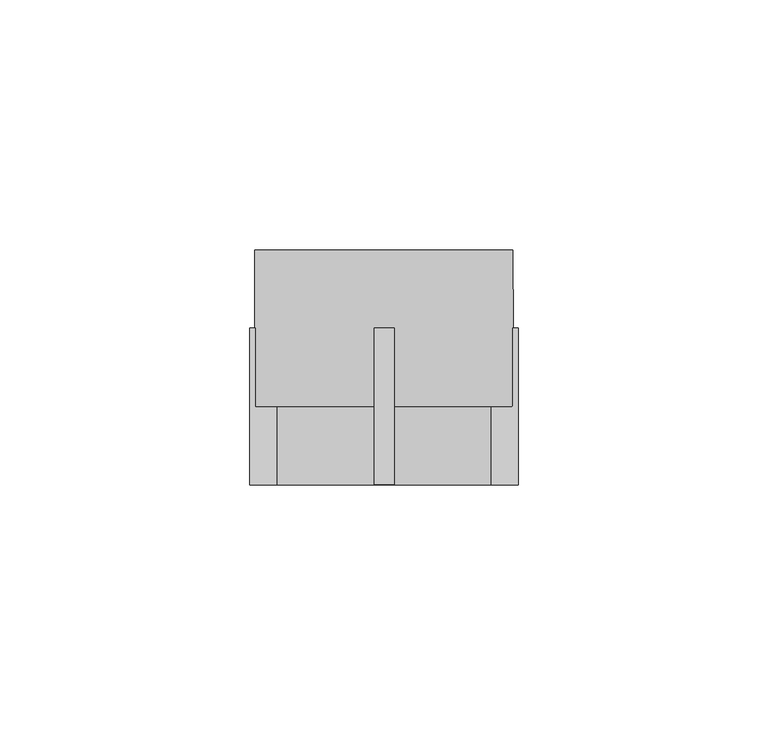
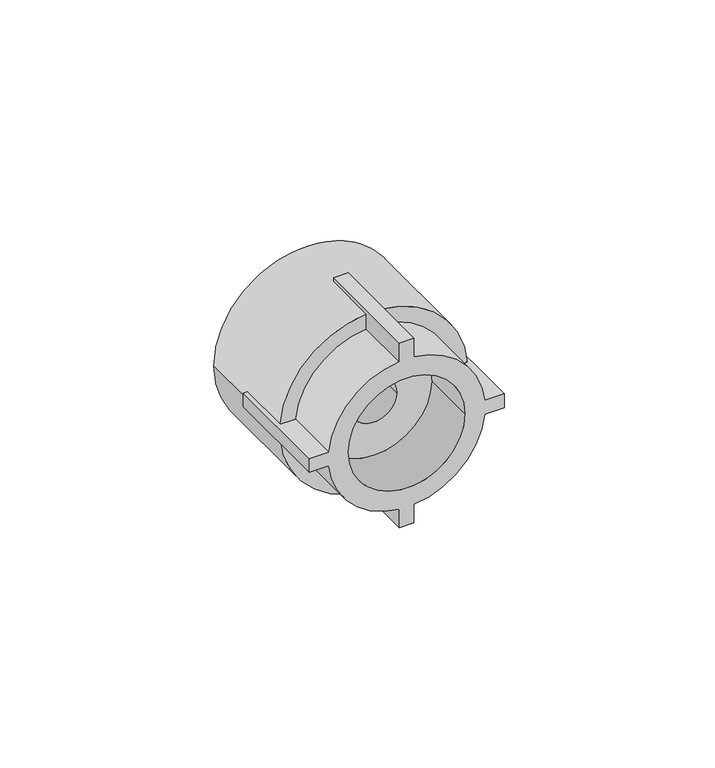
"""IFC4 building model written with IfcOpenShell, lengths in millimetres: pipe fitting geometry, EGB_VASEN_ PPR_Entronque rosca hembra WXR102 : Entronque rosca hembra WXR102."""

import ifcopenshell
import ifcopenshell.guid

model = None  # the IFC model being written
_history = None  # IfcOwnerHistory: only IFC2X3 demands one
_inside = {}  # id of a spatial element -> (the spatial element, [elements in it])
_under = {}  # id of a project, library or spatial element -> (it, [spatial elements below it])
_declared = {}  # id of a project -> (the project, [libraries it declares])
_typed = {}  # id of a type object -> (the type object, [elements of that type])
_made_of = {}  # id of a material, layer set ... -> (it, [elements and type objects made of it])


def new_model(schema):
    """Start an empty IFC model of exactly this schema.

    Asked for "IFC4X3", IfcOpenShell would pick the latest addendum, in which some entities
    have other attributes; the version numbers below select the first issue.
    IFC2X3 requires an IfcOwnerHistory on every rooted entity: one is made here for all.
    """
    global model, _history
    if schema == "IFC4X3":
        model = ifcopenshell.file(schema_version=(4, 3, 0, 0))
    else:
        model = ifcopenshell.file(schema=schema)
    _inside.clear()
    _under.clear()
    _declared.clear()
    _typed.clear()
    _made_of.clear()
    _history = None
    if model.schema == "IFC2X3":
        org = make("IfcOrganization", Name="unknown")
        user = make(
            "IfcPersonAndOrganization",
            ThePerson=make("IfcPerson", FamilyName="unknown"),
            TheOrganization=org,
        )
        app = make(
            "IfcApplication",
            ApplicationDeveloper=org,
            Version="unknown",
            ApplicationFullName="unknown",
            ApplicationIdentifier="unknown",
        )
        _history = make(
            "IfcOwnerHistory",
            OwningUser=user,
            OwningApplication=app,
            ChangeAction="ADDED",
            CreationDate=0,
        )
    return model


def make(cls, **values):
    """One entity of the class cls with the attributes given. An attribute that is None is left unset."""
    return model.create_entity(
        cls, **{name: value for name, value in values.items() if value is not None}
    )


def rooted(cls, **values):
    """An entity with a GlobalId (a new one), such as an element, a storey or a relation."""
    return make(cls, GlobalId=ifcopenshell.guid.new(), OwnerHistory=_history, **values)


def si_unit(unit_type, name, prefix=None):
    """IfcSIUnit, for example si_unit("LENGTHUNIT", "METRE", prefix="MILLI")."""
    return make("IfcSIUnit", UnitType=unit_type, Prefix=prefix, Name=name)


def assignment(units):
    """IfcUnitAssignment: the units of a project."""
    return None if units is None else make("IfcUnitAssignment", Units=units)


def point(xyz):
    """IfcCartesianPoint."""
    return None if xyz is None else make("IfcCartesianPoint", Coordinates=xyz)


def direction(xyz):
    """IfcDirection."""
    return None if xyz is None else make("IfcDirection", DirectionRatios=xyz)


def frame(location, z_axis=None, x_axis=None):
    """IfcAxis2Placement3D, a coordinate frame: its origin and axes. An axis left out is left unset."""
    return make(
        "IfcAxis2Placement3D",
        Location=point(location),
        Axis=direction(z_axis),
        RefDirection=direction(x_axis),
    )


def frame_2d(location, x_axis=None):
    """IfcAxis2Placement2D, a coordinate frame in the plane: its origin and x axis."""
    return make(
        "IfcAxis2Placement2D", Location=point(location), RefDirection=direction(x_axis)
    )


def origin():
    """The frame at (0, 0, 0) with its axes left unset."""
    return frame((0.0, 0.0, 0.0))


def origin_2d():
    """The frame at (0, 0) in the plane with its x axis left unset."""
    return frame_2d((0.0, 0.0))


def place(relative_to, where):
    """IfcLocalPlacement: puts the frame where relative to a parent placement (None: the world)."""
    return make(
        "IfcLocalPlacement", PlacementRelTo=relative_to, RelativePlacement=where
    )


def context(
    kind, dimensions, precision=None, world=None, true_north=None, identifier=None
):
    """IfcGeometricRepresentationContext, for example the 3D "Model" context."""
    return make(
        "IfcGeometricRepresentationContext",
        ContextIdentifier=identifier,
        ContextType=kind,
        CoordinateSpaceDimension=dimensions,
        Precision=precision,
        WorldCoordinateSystem=world,
        TrueNorth=true_north,
    )


def project(units=None, contexts=None):
    """IfcProject with its units and contexts."""
    return rooted(
        "IfcProject",
        Name="project",
        RepresentationContexts=contexts,
        UnitsInContext=assignment(units),
    )


def spatial(cls, under=None, at=None, **own):
    """A site, building, storey or space (cls), placed at a placement, below another one or the project."""
    s = rooted(cls, ObjectPlacement=at, **own)
    if under is not None:
        _under.setdefault(under.id(), (under, []))[1].append(s)
    return s


def polyline(points):
    """IfcPolyline through the points."""
    return make("IfcPolyline", Points=[point(p) for p in points])


def circle_curve(where, radius):
    """IfcCircle in the frame where."""
    return make("IfcCircle", Position=where, Radius=radius)


def trimmed(basis, trim1, trim2, sense, master):
    """IfcTrimmedCurve: the piece of a basis curve between two trims."""
    return make(
        "IfcTrimmedCurve",
        BasisCurve=basis,
        Trim1=trim1,
        Trim2=trim2,
        SenseAgreement=sense,
        MasterRepresentation=master,
    )


def segment(curve, same_sense, transition):
    """IfcCompositeCurveSegment."""
    return make(
        "IfcCompositeCurveSegment",
        Transition=transition,
        SameSense=same_sense,
        ParentCurve=curve,
    )


def composite_curve(segments, self_intersect=None):
    """IfcCompositeCurve: segments joined end to end."""
    return make("IfcCompositeCurve", Segments=segments, SelfIntersect=self_intersect)


def outline(outer, holes=None, kind="AREA"):
    """IfcArbitraryClosedProfileDef: a profile drawn as a closed curve; with holes, ...WithVoids."""
    if holes is None:
        return make("IfcArbitraryClosedProfileDef", ProfileType=kind, OuterCurve=outer)
    return make(
        "IfcArbitraryProfileDefWithVoids",
        ProfileType=kind,
        OuterCurve=outer,
        InnerCurves=holes,
    )


def extrude(swept, where, along, depth):
    """IfcExtrudedAreaSolid: the profile swept, set in the frame where, extruded along a direction by depth."""
    return make(
        "IfcExtrudedAreaSolid",
        SweptArea=swept,
        Position=where,
        ExtrudedDirection=direction(along),
        Depth=depth,
    )


def shape(context_of_items, identifier, shape_type, items):
    """IfcShapeRepresentation: the items that make up one representation, for example the "Body"."""
    return make(
        "IfcShapeRepresentation",
        ContextOfItems=context_of_items,
        RepresentationIdentifier=identifier,
        RepresentationType=shape_type,
        Items=items,
    )


def source(mapping_origin, context_of_items, identifier, shape_type, items):
    """IfcRepresentationMap: a shape defined once, which mapped items show again and again."""
    return make(
        "IfcRepresentationMap",
        MappingOrigin=mapping_origin,
        MappedRepresentation=shape(context_of_items, identifier, shape_type, items),
    )


def transform(
    local_origin,
    x_axis=None,
    y_axis=None,
    z_axis=None,
    scale=None,
    scale2=None,
    scale3=None,
    uniform=True,
):
    """IfcCartesianTransformationOperator3D, or its non-uniform kind. x_axis, y_axis, z_axis: its Axis1, 2, 3."""
    if uniform:
        return make(
            "IfcCartesianTransformationOperator3D",
            Axis1=direction(x_axis),
            Axis2=direction(y_axis),
            LocalOrigin=point(local_origin),
            Scale=scale,
            Axis3=direction(z_axis),
        )
    return make(
        "IfcCartesianTransformationOperator3DnonUniform",
        Axis1=direction(x_axis),
        Axis2=direction(y_axis),
        LocalOrigin=point(local_origin),
        Scale=scale,
        Axis3=direction(z_axis),
        Scale2=scale2,
        Scale3=scale3,
    )


def mapped(mapping_source, mapping_target):
    """IfcMappedItem: shows the shape of a source again, moved by a transform."""
    return make(
        "IfcMappedItem", MappingSource=mapping_source, MappingTarget=mapping_target
    )


def made_of(thing, what):
    """Note that an element or type object is made of a material, layer set ...; save() writes the relation."""
    if what is not None:
        _made_of.setdefault(what.id(), (what, []))[1].append(thing)
    return thing


def element(
    cls,
    number,
    at=None,
    inside=None,
    cuts=None,
    type_object=None,
    material=None,
    context=None,
    identifier="Body",
    shape_type=None,
    held_by="IfcProductDefinitionShape",
    body=None,
    shapes=None,
    **own,
):
    """One element of the class cls, such as IfcWall. Its Tag is "e" and its number.

    at: its placement. inside: the storey or other place that contains it. cuts: it is an
    opening in that element (IfcRelVoidsElement). A single representation is given by context,
    identifier, shape_type and body (its items); several are given by shapes. held_by: the class
    of the entity that holds the representations. save() writes the other relations.
    """
    e = rooted(cls, Tag="e%d" % number, ObjectPlacement=at, **own)
    if body is not None:
        shapes = [shape(context, identifier, shape_type, body)]
    if shapes is not None:
        e.Representation = make(held_by, Representations=shapes)
    if inside is not None:
        _inside.setdefault(inside.id(), (inside, []))[1].append(e)
    if cuts is not None:
        rooted(
            "IfcRelVoidsElement", RelatingBuildingElement=cuts, RelatedOpeningElement=e
        )
    if type_object is not None:
        _typed.setdefault(type_object.id(), (type_object, []))[1].append(e)
    return made_of(e, material)


def aggregate(whole, parts):
    """IfcRelAggregates: a whole, such as a stair, and the parts it consists of."""
    return rooted("IfcRelAggregates", RelatingObject=whole, RelatedObjects=parts)


def save(model, path):
    """Write the relations noted so far, then the file.

    IfcRelAggregates (storeys below a building ...), IfcRelContainedInSpatialStructure (elements
    in a storey), IfcRelDefinesByType, IfcRelAssociatesMaterial and IfcRelDeclares: one each for
    every whole, place, type object, material and project.
    """
    for whole, parts in _under.values():
        aggregate(whole, parts)
    for where, things in _inside.values():
        rooted(
            "IfcRelContainedInSpatialStructure",
            RelatedElements=things,
            RelatingStructure=where,
        )
    for kind, things in _typed.values():
        rooted("IfcRelDefinesByType", RelatedObjects=things, RelatingType=kind)
    for what, things in _made_of.values():
        rooted("IfcRelAssociatesMaterial", RelatedObjects=things, RelatingMaterial=what)
    for by, libraries in _declared.values():
        rooted("IfcRelDeclares", RelatingContext=by, RelatedDefinitions=libraries)
    model.write(path)


def plane_surface(at):
    """IfcPlane: the flat surface through the origin of the frame at, square to its z axis."""
    return make("IfcPlane", Position=at)


def cylinder_surface(at, radius):
    """IfcCylindricalSurface: all points at the distance radius from the z axis of the frame at."""
    return make("IfcCylindricalSurface", Position=at, Radius=radius)


def revolved_surface(curve, axis_point, axis_direction):
    """IfcSurfaceOfRevolution: the curve turned about the line through axis_point along axis_direction."""
    return make(
        "IfcSurfaceOfRevolution",
        SweptCurve=make("IfcArbitraryOpenProfileDef", ProfileType="CURVE", Curve=curve),
        AxisPosition=make("IfcAxis1Placement", Location=point(axis_point), Axis=direction(axis_direction)),
    )


def advanced_brep(points, edges, surfaces, faces):
    """IfcAdvancedBrep: a solid bounded by faces that lie on surfaces and meet in shared edges.

    An edge is (start, end): straight between two places in points (the first is 0);
    or (start, end, curve); or (start, end, curve, False) where it runs against its curve.
    A face is (place in surfaces, loops), or (place, loops, False) where it looks against
    its surface's normal. A loop lists edges by number (the first is 1), with a minus sign
    where the edge is run from its end to its start. The first loop is the outer one.
    """
    corners = [point(p) for p in points]
    vertices = [make("IfcVertexPoint", VertexGeometry=c) for c in corners]
    made = []
    for start, end, *more in edges:
        made.append(
            make(
                "IfcEdgeCurve",
                EdgeStart=vertices[start],
                EdgeEnd=vertices[end],
                EdgeGeometry=more[0] if more else make("IfcPolyline", Points=[corners[start], corners[end]]),
                SameSense=more[1] if len(more) > 1 else True,
            )
        )
    hull = []
    for where, loops, *sense in faces:
        bounds = []
        for j, loop in enumerate(loops):
            ring = [make("IfcOrientedEdge", EdgeElement=made[abs(k) - 1], Orientation=k > 0) for k in loop]
            bounds.append(
                make(
                    "IfcFaceOuterBound" if j == 0 else "IfcFaceBound",
                    Bound=make("IfcEdgeLoop", EdgeList=ring),
                    Orientation=True,
                )
            )
        hull.append(make("IfcAdvancedFace", Bounds=bounds, FaceSurface=surfaces[where], SameSense=sense[0] if sense else True))
    return make("IfcAdvancedBrep", Outer=make("IfcClosedShell", CfsFaces=hull))


def pipe_fitting_d3f641b8(model_context):
    return source(origin(), model_context, "Body", "SolidModel", [
        advanced_brep(
        [(2.0, -15.6666667, 26.8), (-2.0, -15.6666667, 26.8), (-2.0, -15.6666667, 21.4067746), (-21.4067746, -15.6666667, 2.0), (-26.8, -15.6666667, 2.0), (-26.8, -15.6666667, -2.0), (-21.4067746, -15.6666667, -2.0), (-2.0, -15.6666667, -21.4067746), (-2.0, -15.6666667, -26.8), (2.0, -15.6666667, -26.8), (2.0, -15.6666667, -21.4067746), (21.4067746, -15.6666667, -2.0), (26.8, -15.6666667, -2.0), (26.8, -15.6666667, 2.0), (21.4067746, -15.6666667, 2.0), (2.0, -15.6666667, 21.4067746), (-16.0, -15.6666667, 0.0), (16.0, -15.6666667, 0.0), (-2.0, 15.6666667, 26.8), (2.0, 15.6666667, 26.8), (2.0, 15.6666667, 25.7223638), (-2.0, 15.6666667, 25.7223638), (2.0, 15.6666667, -26.8), (-2.0, 15.6666667, -26.8), (-2.0, 15.6666667, -25.7223638), (2.0, 15.6666667, -25.7223638), (26.8, 15.6666667, 2.0), (26.8, 15.6666667, -2.0), (25.7223638, 15.6666667, -2.0), (25.8, 15.6666667, 0.0), (25.7223638, 15.6666667, 2.0), (-26.8, 15.6666667, -2.0), (-26.8, 15.6666667, 2.0), (-25.7223638, 15.6666667, 2.0), (-25.8, 15.6666667, 0.0), (-25.7223638, 15.6666667, -2.0), (2.0, 0.0, 21.4067746), (2.0, 0.0, 25.7223638), (-2.0, 0.0, 25.7223638), (-2.0, 0.0, 21.4067746), (2.0, 0.0, -25.7223638), (2.0, 0.0, -21.4067746), (-2.0, 0.0, -21.4067746), (-2.0, 0.0, -25.7223638), (21.4067746, 0.0, -2.0), (25.7223638, 0.0, -2.0), (25.7223638, 0.0, 2.0), (21.4067746, 0.0, 2.0), (-25.7223638, 0.0, -2.0), (-21.4067746, 0.0, -2.0), (-21.4067746, 0.0, 2.0), (-25.7223638, 0.0, 2.0), (-16.0, 0.0, 0.0), (16.0, 0.0, 0.0), (-6.35, 0.0, 0.0), (6.35, 0.0, 0.0), (-25.8, 31.3333333, 0.0), (25.8, 31.3333333, 0.0), (-6.35, 31.3333333, 0.0), (6.35, 31.3333333, 0.0)],
        [
            (0, 1),
            (1, 2),
            (2, 3, circle_curve(frame((0.0, -15.6666667, 0.0), z_axis=(0.0, -1.0, 0.0), x_axis=(1.0, 0.0, 0.0)), 21.5)),
            (3, 4),
            (4, 5),
            (5, 6),
            (6, 7, circle_curve(frame((0.0, -15.6666667, 0.0), z_axis=(0.0, -1.0, 0.0), x_axis=(1.0, 0.0, 0.0)), 21.5)),
            (7, 8),
            (8, 9),
            (9, 10),
            (10, 11, circle_curve(frame((0.0, -15.6666667, 0.0), z_axis=(0.0, -1.0, 0.0), x_axis=(1.0, 0.0, 0.0)), 21.5)),
            (11, 12),
            (12, 13),
            (13, 14),
            (14, 15, circle_curve(frame((0.0, -15.6666667, 0.0), z_axis=(0.0, -1.0, 0.0), x_axis=(1.0, 0.0, 0.0)), 21.5)),
            (15, 0),
            (16, 17, circle_curve(frame((0.0, -15.6666667, 0.0), z_axis=(0.0, 1.0, 0.0), x_axis=(1.0, 0.0, 0.0)), 16.0)),
            (17, 16, circle_curve(frame((0.0, -15.6666667, 0.0), z_axis=(0.0, 1.0, 0.0), x_axis=(1.0, 0.0, 0.0)), 16.0)),
            (18, 19),
            (19, 20),
            (20, 21, circle_curve(frame((0.0, 15.6666667, 0.0), z_axis=(0.0, -1.0, 0.0), x_axis=(1.0, 0.0, 0.0)), 25.8)),
            (21, 18),
            (22, 23),
            (23, 24),
            (24, 25, circle_curve(frame((0.0, 15.6666667, 0.0), z_axis=(0.0, -1.0, 0.0), x_axis=(1.0, 0.0, 0.0)), 25.8)),
            (25, 22),
            (26, 27),
            (27, 28),
            (28, 29, circle_curve(frame((0.0, 15.6666667, 0.0), z_axis=(0.0, -1.0, 0.0), x_axis=(1.0, 0.0, 0.0)), 25.8)),
            (29, 30, circle_curve(frame((0.0, 15.6666667, 0.0), z_axis=(0.0, -1.0, 0.0), x_axis=(1.0, 0.0, 0.0)), 25.8)),
            (30, 26),
            (31, 32),
            (32, 33),
            (33, 34, circle_curve(frame((0.0, 15.6666667, 0.0), z_axis=(0.0, -1.0, 0.0), x_axis=(1.0, 0.0, 0.0)), 25.8)),
            (34, 35, circle_curve(frame((0.0, 15.6666667, 0.0), z_axis=(0.0, -1.0, 0.0), x_axis=(1.0, 0.0, 0.0)), 25.8)),
            (35, 31),
            (19, 0),
            (15, 36),
            (36, 37),
            (37, 20),
            (18, 1),
            (21, 38),
            (38, 39),
            (39, 2),
            (8, 23),
            (22, 9),
            (25, 40),
            (40, 41),
            (41, 10),
            (7, 42),
            (42, 43),
            (43, 24),
            (27, 12),
            (11, 44),
            (44, 45),
            (45, 28),
            (26, 13),
            (30, 46),
            (46, 47),
            (47, 14),
            (5, 31),
            (35, 48),
            (48, 49),
            (49, 6),
            (32, 4),
            (3, 50),
            (50, 51),
            (51, 33),
            (49, 42, circle_curve(frame((0.0, 0.0, 0.0), z_axis=(0.0, -1.0, 0.0), x_axis=(1.0, 0.0, 0.0)), 21.5)),
            (41, 44, circle_curve(frame((0.0, 0.0, 0.0), z_axis=(0.0, -1.0, 0.0), x_axis=(1.0, 0.0, 0.0)), 21.5)),
            (39, 50, circle_curve(frame((0.0, 0.0, 0.0), z_axis=(0.0, -1.0, 0.0), x_axis=(1.0, 0.0, 0.0)), 21.5)),
            (47, 36, circle_curve(frame((0.0, 0.0, 0.0), z_axis=(0.0, -1.0, 0.0), x_axis=(1.0, 0.0, 0.0)), 21.5)),
            (16, 52),
            (52, 53, circle_curve(frame((0.0, 0.0, 0.0), z_axis=(0.0, 1.0, 0.0), x_axis=(1.0, 0.0, 0.0)), 16.0)),
            (53, 17),
            (53, 52, circle_curve(frame((0.0, 0.0, 0.0), z_axis=(0.0, 1.0, 0.0), x_axis=(1.0, 0.0, 0.0)), 16.0)),
            (54, 55, circle_curve(frame((0.0, 0.0, 0.0), z_axis=(0.0, 1.0, 0.0), x_axis=(1.0, 0.0, 0.0)), 6.35)),
            (55, 54, circle_curve(frame((0.0, 0.0, 0.0), z_axis=(0.0, 1.0, 0.0), x_axis=(1.0, 0.0, 0.0)), 6.35)),
            (40, 45, circle_curve(frame((0.0, 0.0, 0.0), z_axis=(0.0, -1.0, 0.0), x_axis=(1.0, 0.0, 0.0)), 25.8)),
            (48, 43, circle_curve(frame((0.0, 0.0, 0.0), z_axis=(0.0, -1.0, 0.0), x_axis=(1.0, 0.0, 0.0)), 25.8)),
            (46, 37, circle_curve(frame((0.0, 0.0, 0.0), z_axis=(0.0, -1.0, 0.0), x_axis=(1.0, 0.0, 0.0)), 25.8)),
            (38, 51, circle_curve(frame((0.0, 0.0, 0.0), z_axis=(0.0, -1.0, 0.0), x_axis=(1.0, 0.0, 0.0)), 25.8)),
            (56, 57, circle_curve(frame((0.0, 31.3333333, 0.0), z_axis=(0.0, 1.0, 0.0), x_axis=(1.0, 0.0, 0.0)), 25.8)),
            (57, 56, circle_curve(frame((0.0, 31.3333333, 0.0), z_axis=(0.0, 1.0, 0.0), x_axis=(1.0, 0.0, 0.0)), 25.8)),
            (58, 59, circle_curve(frame((0.0, 31.3333333, 0.0), z_axis=(0.0, -1.0, 0.0), x_axis=(1.0, 0.0, 0.0)), 6.35)),
            (59, 58, circle_curve(frame((0.0, 31.3333333, 0.0), z_axis=(0.0, -1.0, 0.0), x_axis=(1.0, 0.0, 0.0)), 6.35)),
            (57, 29),
            (34, 56),
            (54, 58),
            (59, 55),
        ],
        [
            plane_surface(frame((0.0, -15.6666667, 0.0), z_axis=(0.0, -1.0, 0.0), x_axis=(0.0, 0.0, 1.0))),
            plane_surface(frame((0.0, 15.6666667, 0.0), z_axis=(0.0, 1.0, 0.0), x_axis=(0.0, 0.0, 1.0))),
            plane_surface(frame((2.0, -15.6666667, 20.5), z_axis=(1.0, 0.0, 0.0), x_axis=(0.0, 1.0, 0.0))),
            plane_surface(frame((2.0, -15.6666667, 26.8), z_axis=(0.0, 0.0, 1.0), x_axis=(0.0, 1.0, 0.0))),
            plane_surface(frame((-2.0, -15.6666667, 26.8), z_axis=(-1.0, 0.0, 0.0), x_axis=(0.0, 1.0, 0.0))),
            plane_surface(frame((-2.0, -15.6666667, -26.8), z_axis=(0.0, 0.0, -1.0), x_axis=(0.0, 1.0, 0.0))),
            plane_surface(frame((2.0, -15.6666667, -26.8), z_axis=(1.0, 0.0, 0.0), x_axis=(0.0, 1.0, 0.0))),
            plane_surface(frame((-2.0, -15.6666667, -20.5), z_axis=(-1.0, 0.0, 0.0), x_axis=(0.0, 1.0, 0.0))),
            plane_surface(frame((20.5, -15.6666667, -2.0), z_axis=(0.0, 0.0, -1.0), x_axis=(0.0, 1.0, 0.0))),
            plane_surface(frame((26.8, -15.6666667, -2.0), z_axis=(1.0, 0.0, 0.0), x_axis=(0.0, 1.0, 0.0))),
            plane_surface(frame((26.8, -15.6666667, 2.0), z_axis=(0.0, 0.0, 1.0), x_axis=(0.0, 1.0, 0.0))),
            plane_surface(frame((-26.8, -15.6666667, -2.0), z_axis=(0.0, 0.0, -1.0), x_axis=(0.0, 1.0, 0.0))),
            plane_surface(frame((-20.5, -15.6666667, 2.0), z_axis=(0.0, 0.0, 1.0), x_axis=(0.0, 1.0, 0.0))),
            plane_surface(frame((-26.8, -15.6666667, 2.0), z_axis=(-1.0, 0.0, 0.0), x_axis=(0.0, 1.0, 0.0))),
            cylinder_surface(frame((0.0, 0.0, 0.0), z_axis=(0.0, -1.0, 0.0), x_axis=(1.0, 0.0, 0.0)), 21.5),
            revolved_surface(polyline([(16.0, 0.0, 0.0), (16.0, -15.6666667, 0.0)]), (0.0, 0.0, 0.0), (0.0, 1.0, 0.0)),
            plane_surface(frame((25.8, 0.0, 0.0), z_axis=(0.0, -1.0, 0.0), x_axis=(0.0, 0.0, 1.0))),
            plane_surface(frame((25.8, 31.3333333, 0.0), z_axis=(0.0, 1.0, 0.0), x_axis=(0.0, 0.0, -1.0))),
            cylinder_surface(frame((0.0, 31.3333333, 0.0), z_axis=(0.0, -1.0, 0.0), x_axis=(1.0, 0.0, 0.0)), 25.8),
            revolved_surface(polyline([(6.35, 31.3333333, 0.0), (6.35, 0.0, 0.0)]), (0.0, 0.0, 0.0), (0.0, 1.0, 0.0)),
        ],
        [
            (0, [[1, 2, 3, 4, 5, 6, 7, 8, 9, 10, 11, 12, 13, 14, 15, 16], [17, 18]]),
            (1, [[19, 20, 21, 22]]),
            (1, [[23, 24, 25, 26]]),
            (1, [[27, 28, 29, 30, 31]]),
            (1, [[32, 33, 34, 35, 36]]),
            (2, [[37, -16, 38, 39, 40, -20]]),
            (3, [[-1, -37, -19, 41]]),
            (4, [[-41, -22, 42, 43, 44, -2]]),
            (5, [[-9, 45, -23, 46]]),
            (6, [[-46, -26, 47, 48, 49, -10]]),
            (7, [[-45, -8, 50, 51, 52, -24]]),
            (8, [[53, -12, 54, 55, 56, -28]]),
            (9, [[-13, -53, -27, 57]]),
            (10, [[-57, -31, 58, 59, 60, -14]]),
            (11, [[61, -36, 62, 63, 64, -6]]),
            (12, [[65, -4, 66, 67, 68, -33]]),
            (13, [[-5, -65, -32, -61]]),
            (14, [[-7, -64, 69, -50]]),
            (14, [[-11, -49, 70, -54]]),
            (14, [[-3, -44, 71, -66]]),
            (14, [[-15, -60, 72, -38]]),
            (15, [[-17, 73, 74, 75]]),
            (15, [[-18, -75, 76, -73]]),
            (16, [[-74, -76], [77, 78]]),
            (16, [[79, -55, -70, -48]]),
            (16, [[80, -51, -69, -63]]),
            (16, [[81, -39, -72, -59]]),
            (16, [[82, -67, -71, -43]]),
            (17, [[83, 84], [85, 86]]),
            (18, [[-84, 87, -29, -56, -79, -47, -25, -52, -80, -62, -35, 88]]),
            (18, [[-83, -88, -34, -68, -82, -42, -21, -40, -81, -58, -30, -87]]),
            (19, [[-77, 89, -86, 90]]),
            (19, [[-78, -90, -85, -89]]),
        ],
    ),
        extrude(outline(composite_curve([segment(trimmed(circle_curve(origin_2d(), 6.35), [point((0.0, -6.35))], [point((0.0, 6.35))], False, "CARTESIAN"), True, "CONTINUOUS"), segment(trimmed(circle_curve(origin_2d(), 6.35), [point((0.0, 6.35))], [point((0.0, -6.35))], False, "CARTESIAN"), True, "CONTINUOUS")], self_intersect=False)), frame((0.0, 15.6666667, 0.0), z_axis=(0.0, 1.0, 0.0), x_axis=(0.0, 0.0, 1.0)), (0.0, 0.0, 1.0), 15.6666667),
    ])


if __name__ == "__main__":
    model = new_model("IFC4")
    model_context = context("Model", 3, world=origin())
    ifc_project = project(units=[si_unit("LENGTHUNIT", "METRE", prefix="MILLI")], contexts=[model_context])
    site = spatial("IfcSite", under=ifc_project)
    building = spatial("IfcBuilding", under=site)
    placement = place(None, origin())
    pipe_fitting_shape = pipe_fitting_d3f641b8(model_context)
    element("IfcPipeFitting", 1, ObjectType="EGB_VASEN_ PPR_Entronque rosca hembra WXR102 : Entronque rosca hembra WXR102", at=placement, inside=building, context=model_context, shape_type="MappedRepresentation", body=[
        mapped(pipe_fitting_shape, transform((0.0, 0.0, 0.0), x_axis=(1.0, 0.0, 0.0), y_axis=(0.0, 1.0, 0.0), z_axis=(0.0, 0.0, 1.0))),
    ])
    save(model, "model.ifc")
